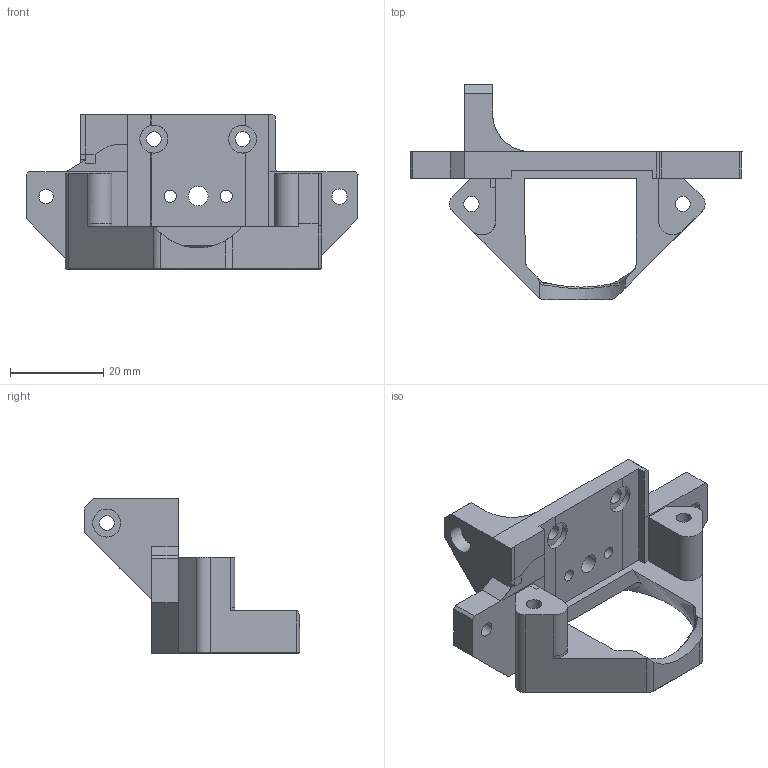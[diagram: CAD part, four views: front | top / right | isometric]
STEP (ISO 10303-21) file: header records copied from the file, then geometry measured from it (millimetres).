
FILE_DESCRIPTION(/* description */ (''),/* implementation_level */ '2;1');
FILE_NAME(/* name */ 'mount-lgx-lite-nf-crazy-plus-2.1.step',/* time_stamp */ '2023-01-19T19:15:19+01:00',/* author */ (''),/* organization */ (''),/* preprocessor_version */ 'ST-DEVELOPER v19.2',/* originating_system */ 'Autodesk Translation Framework v11.17.0.187',/* authorisation */ '');
FILE_SCHEMA (('AUTOMOTIVE_DESIGN { 1 0 10303 214 3 1 1 }'));
Length unit declared in the file: millimetre
Products named in the file (1): mount-lgx-lite-mosquito-2.1
Bounding box: 71.07 x 46.08 x 33.12 mm (x, y, z)
Volume: 15118.6 mm3; surface area: 8595.2 mm2
Topology: 1 solids, 1 shells, 118 faces, 343 edges, 229 vertices
Faces by surface type: plane 62, cylinder 30, bspline 18, cone 8
Full cylindrical faces by diameter (mm): 2.6 x2, 3.1 x1, 3.15 x1, 3.2 x2, 3.25 x4, 4.2 x1, 4.6 x2, 6 x3
Entity records: 5562 total; most frequent: CARTESIAN_POINT 2463, ORIENTED_EDGE 686, DIRECTION 553, EDGE_CURVE 343, VERTEX_POINT 229, LINE 209, VECTOR 209, AXIS2_PLACEMENT_3D 172
